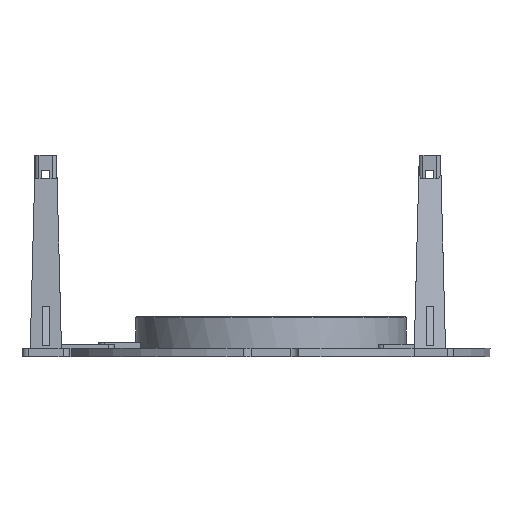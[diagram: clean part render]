
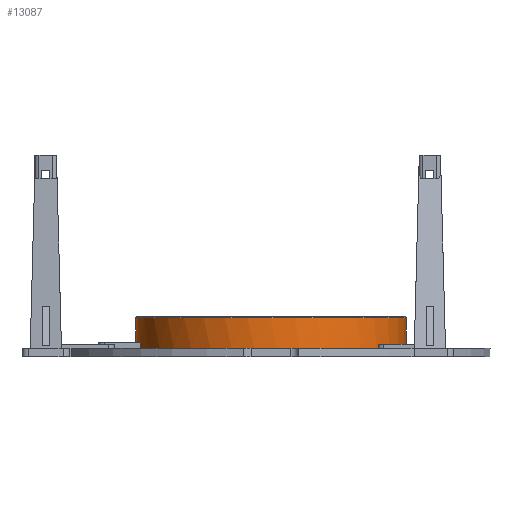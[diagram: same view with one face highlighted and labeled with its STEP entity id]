
A CAD part, front view. The second image highlights one B-rep face of the part: STEP entity #13087.
In plain terms, the highlighted cylindrical face has radius 51 mm (diameter 102 mm), a full revolution.
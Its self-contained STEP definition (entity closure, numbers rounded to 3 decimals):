
#100 = PLANE('',#101);
#101 = AXIS2_PLACEMENT_3D('',#102,#103,#104);
#102 = CARTESIAN_POINT('',(0.,0.,0.));
#103 = DIRECTION('',(0.,0.,1.));
#104 = DIRECTION('',(1.,0.,-0.));
#11349 = EDGE_CURVE('',#11350,#11352,#11354,.T.);
#11350 = VERTEX_POINT('',#11351);
#11351 = CARTESIAN_POINT('',(51.,0.,0.));
#11352 = VERTEX_POINT('',#11353);
#11353 = CARTESIAN_POINT('',(-50.517,-7.,0.));
#11354 = SURFACE_CURVE('',#11355,(#11360,#11367),.PCURVE_S1.);
#11355 = CIRCLE('',#11356,51.);
#11356 = AXIS2_PLACEMENT_3D('',#11357,#11358,#11359);
#11357 = CARTESIAN_POINT('',(0.,0.,0.));
#11358 = DIRECTION('',(0.,0.,1.));
#11359 = DIRECTION('',(1.,0.,-0.));
#11360 = PCURVE('',#100,#11361);
#11361 = DEFINITIONAL_REPRESENTATION('',(#11362),#11366);
#11362 = CIRCLE('',#11363,51.);
#11363 = AXIS2_PLACEMENT_2D('',#11364,#11365);
#11364 = CARTESIAN_POINT('',(0.,0.));
#11365 = DIRECTION('',(1.,0.));
#11366 = ( GEOMETRIC_REPRESENTATION_CONTEXT(2) 
PARAMETRIC_REPRESENTATION_CONTEXT() REPRESENTATION_CONTEXT('2D SPACE',''
  ) );
#11367 = PCURVE('',#11368,#11373);
#11368 = CYLINDRICAL_SURFACE('',#11369,51.);
#11369 = AXIS2_PLACEMENT_3D('',#11370,#11371,#11372);
#11370 = CARTESIAN_POINT('',(0.,0.,0.));
#11371 = DIRECTION('',(0.,0.,1.));
#11372 = DIRECTION('',(1.,0.,-0.));
#11373 = DEFINITIONAL_REPRESENTATION('',(#11374),#11378);
#11374 = LINE('',#11375,#11376);
#11375 = CARTESIAN_POINT('',(0.,0.));
#11376 = VECTOR('',#11377,1.);
#11377 = DIRECTION('',(1.,0.));
#11378 = ( GEOMETRIC_REPRESENTATION_CONTEXT(2) 
PARAMETRIC_REPRESENTATION_CONTEXT() REPRESENTATION_CONTEXT('2D SPACE',''
  ) );
#11380 = EDGE_CURVE('',#11381,#11350,#11383,.T.);
#11381 = VERTEX_POINT('',#11382);
#11382 = CARTESIAN_POINT('',(-49.315,-13.,0.));
#11383 = SURFACE_CURVE('',#11384,(#11389,#11396),.PCURVE_S1.);
#11384 = CIRCLE('',#11385,51.);
#11385 = AXIS2_PLACEMENT_3D('',#11386,#11387,#11388);
#11386 = CARTESIAN_POINT('',(0.,0.,0.));
#11387 = DIRECTION('',(0.,0.,1.));
#11388 = DIRECTION('',(1.,0.,-0.));
#11389 = PCURVE('',#100,#11390);
#11390 = DEFINITIONAL_REPRESENTATION('',(#11391),#11395);
#11391 = CIRCLE('',#11392,51.);
#11392 = AXIS2_PLACEMENT_2D('',#11393,#11394);
#11393 = CARTESIAN_POINT('',(0.,0.));
#11394 = DIRECTION('',(1.,0.));
#11395 = ( GEOMETRIC_REPRESENTATION_CONTEXT(2) 
PARAMETRIC_REPRESENTATION_CONTEXT() REPRESENTATION_CONTEXT('2D SPACE',''
  ) );
#11396 = PCURVE('',#11368,#11397);
#11397 = DEFINITIONAL_REPRESENTATION('',(#11398),#11402);
#11398 = LINE('',#11399,#11400);
#11399 = CARTESIAN_POINT('',(0.,0.));
#11400 = VECTOR('',#11401,1.);
#11401 = DIRECTION('',(1.,0.));
#11402 = ( GEOMETRIC_REPRESENTATION_CONTEXT(2) 
PARAMETRIC_REPRESENTATION_CONTEXT() REPRESENTATION_CONTEXT('2D SPACE',''
  ) );
#11420 = PLANE('',#11421);
#11421 = AXIS2_PLACEMENT_3D('',#11422,#11423,#11424);
#11422 = CARTESIAN_POINT('',(-19.,-13.,0.));
#11423 = DIRECTION('',(0.,-1.,0.));
#11424 = DIRECTION('',(0.,0.,1.));
#11536 = PLANE('',#11537);
#11537 = AXIS2_PLACEMENT_3D('',#11538,#11539,#11540);
#11538 = CARTESIAN_POINT('',(-19.,-7.,0.));
#11539 = DIRECTION('',(0.,-1.,0.));
#11540 = DIRECTION('',(0.,0.,1.));
#12788 = EDGE_CURVE('',#11352,#12789,#12791,.T.);
#12789 = VERTEX_POINT('',#12790);
#12790 = CARTESIAN_POINT('',(-50.517,-7.,2.2));
#12791 = SURFACE_CURVE('',#12792,(#12796,#12802),.PCURVE_S1.);
#12792 = LINE('',#12793,#12794);
#12793 = CARTESIAN_POINT('',(-50.517,-7.,0.));
#12794 = VECTOR('',#12795,1.);
#12795 = DIRECTION('',(0.,0.,1.));
#12796 = PCURVE('',#11536,#12797);
#12797 = DEFINITIONAL_REPRESENTATION('',(#12798),#12801);
#12798 = B_SPLINE_CURVE_WITH_KNOTS('',1,(#12799,#12800),.UNSPECIFIED.,
  .F.,.F.,(2,2),(0.,2.42),.PIECEWISE_BEZIER_KNOTS.);
#12799 = CARTESIAN_POINT('',(0.,31.517));
#12800 = CARTESIAN_POINT('',(2.42,31.517));
#12801 = ( GEOMETRIC_REPRESENTATION_CONTEXT(2) 
PARAMETRIC_REPRESENTATION_CONTEXT() REPRESENTATION_CONTEXT('2D SPACE',''
  ) );
#12802 = PCURVE('',#11368,#12803);
#12803 = DEFINITIONAL_REPRESENTATION('',(#12804),#12807);
#12804 = B_SPLINE_CURVE_WITH_KNOTS('',1,(#12805,#12806),.UNSPECIFIED.,
  .F.,.F.,(2,2),(0.,2.42),.PIECEWISE_BEZIER_KNOTS.);
#12805 = CARTESIAN_POINT('',(3.279,0.));
#12806 = CARTESIAN_POINT('',(3.279,2.42));
#12807 = ( GEOMETRIC_REPRESENTATION_CONTEXT(2) 
PARAMETRIC_REPRESENTATION_CONTEXT() REPRESENTATION_CONTEXT('2D SPACE',''
  ) );
#12825 = PLANE('',#12826);
#12826 = AXIS2_PLACEMENT_3D('',#12827,#12828,#12829);
#12827 = CARTESIAN_POINT('',(-19.,-7.,2.2));
#12828 = DIRECTION('',(0.,0.,1.));
#12829 = DIRECTION('',(-1.,0.,0.));
#12861 = EDGE_CURVE('',#12789,#12862,#12864,.T.);
#12862 = VERTEX_POINT('',#12863);
#12863 = CARTESIAN_POINT('',(-49.315,-13.,2.2));
#12864 = SURFACE_CURVE('',#12865,(#12870,#12877),.PCURVE_S1.);
#12865 = CIRCLE('',#12866,51.);
#12866 = AXIS2_PLACEMENT_3D('',#12867,#12868,#12869);
#12867 = CARTESIAN_POINT('',(0.,0.,2.2));
#12868 = DIRECTION('',(0.,0.,1.));
#12869 = DIRECTION('',(1.,0.,-0.));
#12870 = PCURVE('',#12825,#12871);
#12871 = DEFINITIONAL_REPRESENTATION('',(#12872),#12876);
#12872 = CIRCLE('',#12873,51.);
#12873 = AXIS2_PLACEMENT_2D('',#12874,#12875);
#12874 = CARTESIAN_POINT('',(-19.,-7.));
#12875 = DIRECTION('',(-1.,0.));
#12876 = ( GEOMETRIC_REPRESENTATION_CONTEXT(2) 
PARAMETRIC_REPRESENTATION_CONTEXT() REPRESENTATION_CONTEXT('2D SPACE',''
  ) );
#12877 = PCURVE('',#11368,#12878);
#12878 = DEFINITIONAL_REPRESENTATION('',(#12879),#12883);
#12879 = LINE('',#12880,#12881);
#12880 = CARTESIAN_POINT('',(0.,2.2));
#12881 = VECTOR('',#12882,1.);
#12882 = DIRECTION('',(1.,0.));
#12883 = ( GEOMETRIC_REPRESENTATION_CONTEXT(2) 
PARAMETRIC_REPRESENTATION_CONTEXT() REPRESENTATION_CONTEXT('2D SPACE',''
  ) );
#13067 = EDGE_CURVE('',#11381,#12862,#13068,.T.);
#13068 = SURFACE_CURVE('',#13069,(#13073,#13079),.PCURVE_S1.);
#13069 = LINE('',#13070,#13071);
#13070 = CARTESIAN_POINT('',(-49.315,-13.,0.));
#13071 = VECTOR('',#13072,1.);
#13072 = DIRECTION('',(0.,0.,1.));
#13073 = PCURVE('',#11420,#13074);
#13074 = DEFINITIONAL_REPRESENTATION('',(#13075),#13078);
#13075 = B_SPLINE_CURVE_WITH_KNOTS('',1,(#13076,#13077),.UNSPECIFIED.,
  .F.,.F.,(2,2),(0.,2.42),.PIECEWISE_BEZIER_KNOTS.);
#13076 = CARTESIAN_POINT('',(0.,30.315));
#13077 = CARTESIAN_POINT('',(2.42,30.315));
#13078 = ( GEOMETRIC_REPRESENTATION_CONTEXT(2) 
PARAMETRIC_REPRESENTATION_CONTEXT() REPRESENTATION_CONTEXT('2D SPACE',''
  ) );
#13079 = PCURVE('',#11368,#13080);
#13080 = DEFINITIONAL_REPRESENTATION('',(#13081),#13084);
#13081 = B_SPLINE_CURVE_WITH_KNOTS('',1,(#13082,#13083),.UNSPECIFIED.,
  .F.,.F.,(2,2),(0.,2.42),.PIECEWISE_BEZIER_KNOTS.);
#13082 = CARTESIAN_POINT('',(3.399,0.));
#13083 = CARTESIAN_POINT('',(3.399,2.42));
#13084 = ( GEOMETRIC_REPRESENTATION_CONTEXT(2) 
PARAMETRIC_REPRESENTATION_CONTEXT() REPRESENTATION_CONTEXT('2D SPACE',''
  ) );
#13087 = ADVANCED_FACE('',(#13088),#11368,.T.);
#13088 = FACE_BOUND('',#13089,.T.);
#13089 = EDGE_LOOP('',(#13090,#13119,#13140,#13141,#13142,#13143,#13144,
    #13145));
#13090 = ORIENTED_EDGE('',*,*,#13091,.F.);
#13091 = EDGE_CURVE('',#13092,#13092,#13094,.T.);
#13092 = VERTEX_POINT('',#13093);
#13093 = CARTESIAN_POINT('',(51.,0.,11.61));
#13094 = SURFACE_CURVE('',#13095,(#13100,#13107),.PCURVE_S1.);
#13095 = CIRCLE('',#13096,51.);
#13096 = AXIS2_PLACEMENT_3D('',#13097,#13098,#13099);
#13097 = CARTESIAN_POINT('',(0.,0.,11.61));
#13098 = DIRECTION('',(0.,0.,1.));
#13099 = DIRECTION('',(1.,0.,-0.));
#13100 = PCURVE('',#11368,#13101);
#13101 = DEFINITIONAL_REPRESENTATION('',(#13102),#13106);
#13102 = LINE('',#13103,#13104);
#13103 = CARTESIAN_POINT('',(0.,11.61));
#13104 = VECTOR('',#13105,1.);
#13105 = DIRECTION('',(1.,0.));
#13106 = ( GEOMETRIC_REPRESENTATION_CONTEXT(2) 
PARAMETRIC_REPRESENTATION_CONTEXT() REPRESENTATION_CONTEXT('2D SPACE',''
  ) );
#13107 = PCURVE('',#13108,#13113);
#13108 = CONICAL_SURFACE('',#13109,51.,0.785);
#13109 = AXIS2_PLACEMENT_3D('',#13110,#13111,#13112);
#13110 = CARTESIAN_POINT('',(0.,0.,11.61));
#13111 = DIRECTION('',(-0.,-0.,-1.));
#13112 = DIRECTION('',(1.,0.,-0.));
#13113 = DEFINITIONAL_REPRESENTATION('',(#13114),#13118);
#13114 = LINE('',#13115,#13116);
#13115 = CARTESIAN_POINT('',(-0.,-0.));
#13116 = VECTOR('',#13117,1.);
#13117 = DIRECTION('',(-1.,-0.));
#13118 = ( GEOMETRIC_REPRESENTATION_CONTEXT(2) 
PARAMETRIC_REPRESENTATION_CONTEXT() REPRESENTATION_CONTEXT('2D SPACE',''
  ) );
#13119 = ORIENTED_EDGE('',*,*,#13120,.F.);
#13120 = EDGE_CURVE('',#11350,#13092,#13121,.T.);
#13121 = SEAM_CURVE('',#13122,(#13126,#13133),.PCURVE_S1.);
#13122 = LINE('',#13123,#13124);
#13123 = CARTESIAN_POINT('',(51.,0.,0.));
#13124 = VECTOR('',#13125,1.);
#13125 = DIRECTION('',(0.,0.,1.));
#13126 = PCURVE('',#11368,#13127);
#13127 = DEFINITIONAL_REPRESENTATION('',(#13128),#13132);
#13128 = LINE('',#13129,#13130);
#13129 = CARTESIAN_POINT('',(6.283,-0.));
#13130 = VECTOR('',#13131,1.);
#13131 = DIRECTION('',(0.,1.));
#13132 = ( GEOMETRIC_REPRESENTATION_CONTEXT(2) 
PARAMETRIC_REPRESENTATION_CONTEXT() REPRESENTATION_CONTEXT('2D SPACE',''
  ) );
#13133 = PCURVE('',#11368,#13134);
#13134 = DEFINITIONAL_REPRESENTATION('',(#13135),#13139);
#13135 = LINE('',#13136,#13137);
#13136 = CARTESIAN_POINT('',(0.,-0.));
#13137 = VECTOR('',#13138,1.);
#13138 = DIRECTION('',(0.,1.));
#13139 = ( GEOMETRIC_REPRESENTATION_CONTEXT(2) 
PARAMETRIC_REPRESENTATION_CONTEXT() REPRESENTATION_CONTEXT('2D SPACE',''
  ) );
#13140 = ORIENTED_EDGE('',*,*,#11349,.T.);
#13141 = ORIENTED_EDGE('',*,*,#12788,.T.);
#13142 = ORIENTED_EDGE('',*,*,#12861,.T.);
#13143 = ORIENTED_EDGE('',*,*,#13067,.F.);
#13144 = ORIENTED_EDGE('',*,*,#11380,.T.);
#13145 = ORIENTED_EDGE('',*,*,#13120,.T.);
